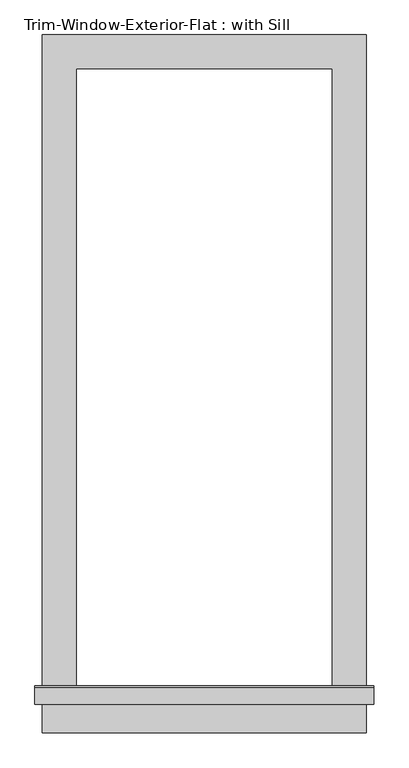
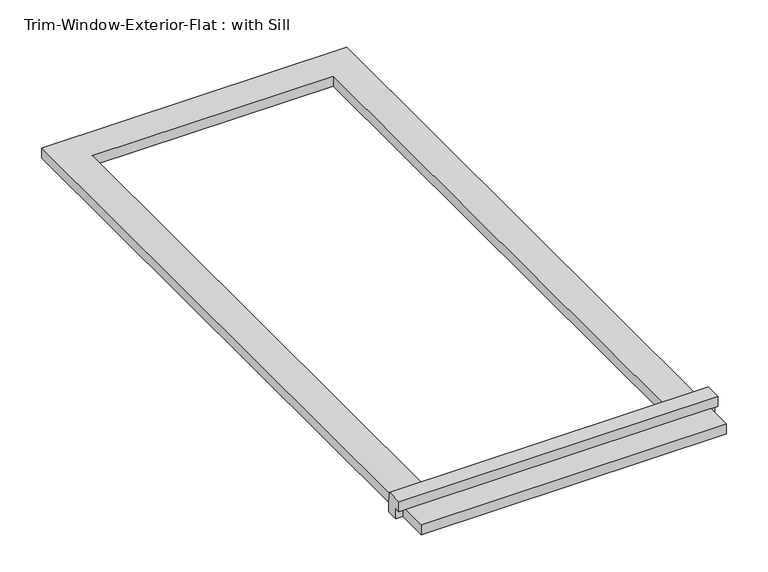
"""IFC4 building model written with IfcOpenShell, lengths in millimetres: proxy geometry, Trim-Window-Exterior-Flat : with Sill."""

from ifc_helpers import new_model, si_unit, frame, origin, origin_with_axes, place, context, project, spatial, polyline, outline, extrude, source, transform, mapped, element, save


def trim_window_exterior_flat_with_sill_c72e890f(model_context):
    return source(origin(), model_context, "Body", "SweptSolid", [
        extrude(outline(polyline([(273.05, -1063.5823709), (273.05, -1120.7323709), (-273.05, -1120.7323709), (-273.05, -1063.5823709), (273.05, -1063.5823709)])), origin_with_axes(), (0.0, 0.0, 1.0), 19.05),
        extrude(outline(polyline([(-1073.15, 38.1), (-1043.8580645, 38.1), (-1041.4, 19.05), (-1041.4, 0.0), (-1063.5823709, 0.0), (-1063.5823709, 19.05), (-1073.15, 19.05), (-1073.15, 38.1)])), frame((-285.75, 0.0, 0.0), z_axis=(1.0, 0.0, 0.0), x_axis=(0.0, 1.0, 0.0)), (0.0, 0.0, 1.0), 571.5),
        extrude(outline(polyline([(-273.05, 57.15), (273.05, 57.15), (273.05, -1041.4), (215.9, -1041.4), (215.9, 0.0), (-215.9, 0.0), (-215.9, -1041.4), (-273.05, -1041.4), (-273.05, 57.15)])), origin_with_axes(), (0.0, 0.0, 1.0), 19.05),
    ])


if __name__ == "__main__":
    model = new_model("IFC4")
    model_context = context("Model", 3, world=origin())
    ifc_project = project(units=[si_unit("LENGTHUNIT", "METRE", prefix="MILLI")], contexts=[model_context])
    site = spatial("IfcSite", under=ifc_project)
    building = spatial("IfcBuilding", under=site)
    placement = place(None, origin())
    trim_window_exterior_flat_with_sill_shape = trim_window_exterior_flat_with_sill_c72e890f(model_context)
    element("IfcBuildingElementProxy", 1, Name="Trim-Window-Exterior-Flat : with Sill", ObjectType="Trim-Window-Exterior-Flat : with Sill", at=placement, inside=building, context=model_context, shape_type="MappedRepresentation", body=[
        mapped(trim_window_exterior_flat_with_sill_shape, transform((0.0, 0.0, 0.0), x_axis=(1.0, 0.0, 0.0), y_axis=(0.0, 1.0, 0.0), z_axis=(0.0, 0.0, 1.0))),
    ])
    save(model, "model.ifc")
